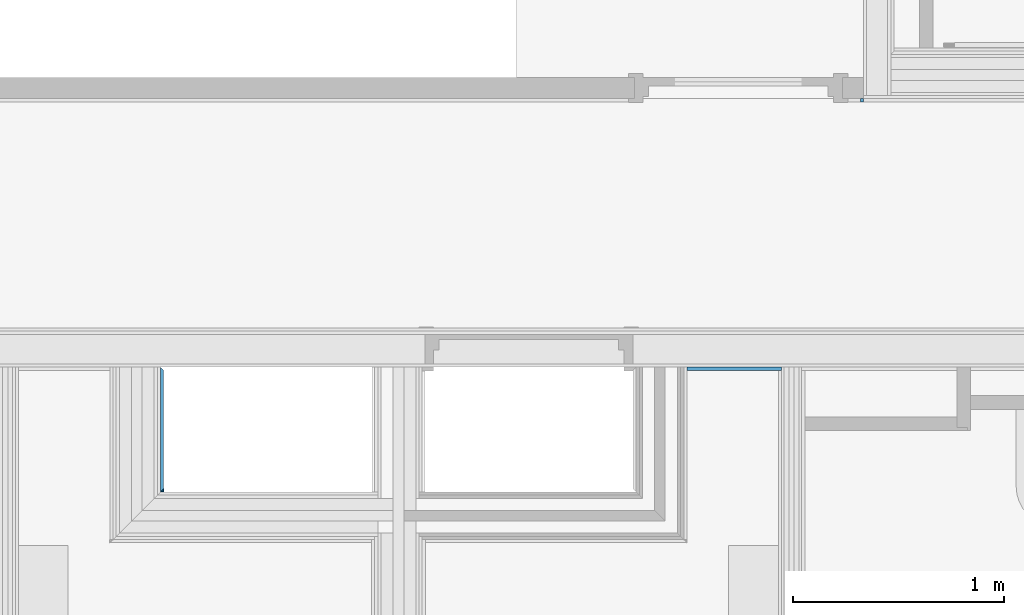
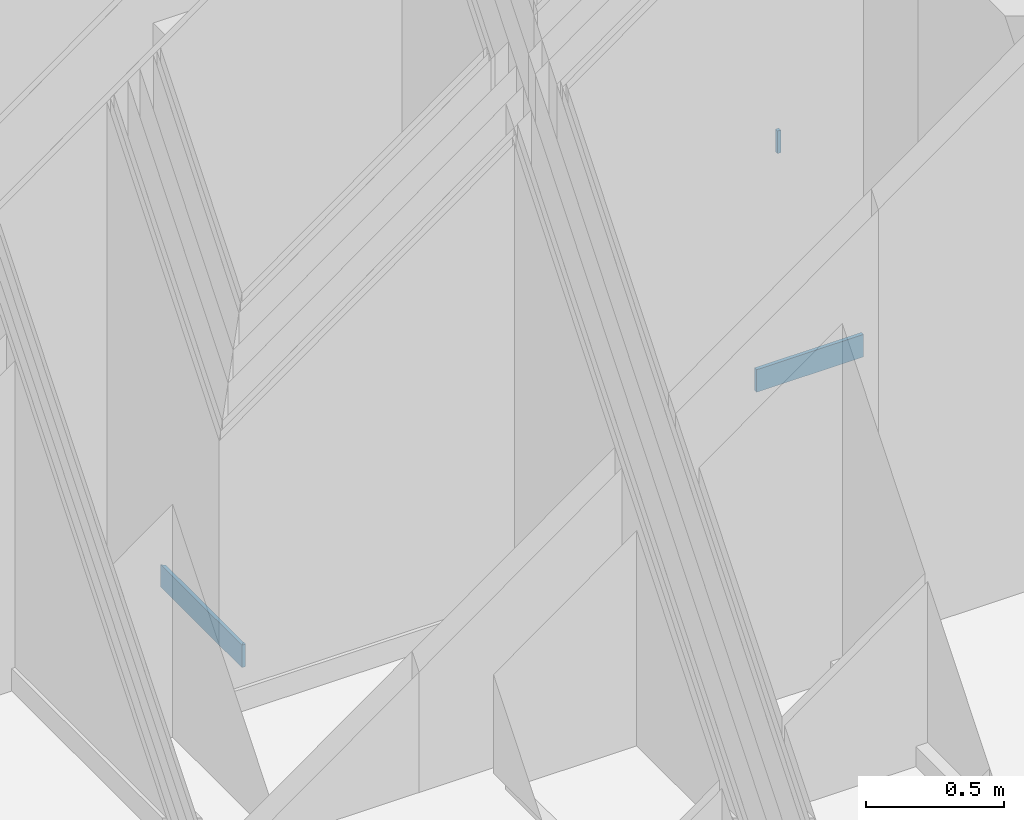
# One storey, part 30 of 64: 4 building element parts, 4 elements without a shape of their own.
"""IFC2X3 building model written with IfcOpenShell, lengths in metres."""

import ifcopenshell
import ifcopenshell.guid

model = None  # the IFC model being written
_history = None  # IfcOwnerHistory: only IFC2X3 demands one
_inside = {}  # id of a spatial element -> (the spatial element, [elements in it])
_under = {}  # id of a project, library or spatial element -> (it, [spatial elements below it])
_declared = {}  # id of a project -> (the project, [libraries it declares])
_typed = {}  # id of a type object -> (the type object, [elements of that type])
_made_of = {}  # id of a material, layer set ... -> (it, [elements and type objects made of it])


def new_model(schema):
    """Start an empty IFC model of exactly this schema.

    Asked for "IFC4X3", IfcOpenShell would pick the latest addendum, in which some entities
    have other attributes; the version numbers below select the first issue.
    IFC2X3 requires an IfcOwnerHistory on every rooted entity: one is made here for all.
    """
    global model, _history
    if schema == "IFC4X3":
        model = ifcopenshell.file(schema_version=(4, 3, 0, 0))
    else:
        model = ifcopenshell.file(schema=schema)
    _inside.clear()
    _under.clear()
    _declared.clear()
    _typed.clear()
    _made_of.clear()
    _history = None
    if model.schema == "IFC2X3":
        org = make("IfcOrganization", Name="unknown")
        user = make(
            "IfcPersonAndOrganization",
            ThePerson=make("IfcPerson", FamilyName="unknown"),
            TheOrganization=org,
        )
        app = make(
            "IfcApplication",
            ApplicationDeveloper=org,
            Version="unknown",
            ApplicationFullName="unknown",
            ApplicationIdentifier="unknown",
        )
        _history = make(
            "IfcOwnerHistory",
            OwningUser=user,
            OwningApplication=app,
            ChangeAction="ADDED",
            CreationDate=0,
        )
    return model


def make(cls, **values):
    """One entity of the class cls with the attributes given. An attribute that is None is left unset."""
    return model.create_entity(
        cls, **{name: value for name, value in values.items() if value is not None}
    )


def entity(cls, *values):
    """Any entity or typed value of the class cls, its attributes in the order of the schema. None: left unset."""
    e = model.create_entity(cls)
    for i, value in enumerate(values):
        if value is not None:
            e[i] = value
    return e


def rooted(cls, **values):
    """An entity with a GlobalId (a new one), such as an element, a storey or a relation."""
    return make(cls, GlobalId=ifcopenshell.guid.new(), OwnerHistory=_history, **values)


def si_unit(unit_type, name, prefix=None):
    """IfcSIUnit, for example si_unit("LENGTHUNIT", "METRE", prefix="MILLI")."""
    return make("IfcSIUnit", UnitType=unit_type, Prefix=prefix, Name=name)


def converted_unit(unit_type, name, factor, base, dimensions=None, offset=None):
    """IfcConversionBasedUnit, such as the inch: factor (a typed value) times the base unit."""
    return make(
        "IfcConversionBasedUnit"
        if offset is None
        else "IfcConversionBasedUnitWithOffset",
        ConversionOffset=offset,
        Dimensions=None
        if dimensions is None
        else entity("IfcDimensionalExponents", *dimensions),
        UnitType=unit_type,
        Name=name,
        ConversionFactor=make(
            "IfcMeasureWithUnit", ValueComponent=factor, UnitComponent=base
        ),
    )


def derived_unit(unit_type, elements):
    """IfcDerivedUnit: a product of units, each with its exponent."""
    return make(
        "IfcDerivedUnit",
        Elements=[
            make("IfcDerivedUnitElement", Unit=unit, Exponent=power)
            for unit, power in elements
        ],
        UnitType=unit_type,
    )


def money_unit(currency):
    """IfcMonetaryUnit."""
    return make("IfcMonetaryUnit", Currency=currency)


def assignment(units):
    """IfcUnitAssignment: the units of a project."""
    return None if units is None else make("IfcUnitAssignment", Units=units)


def point(xyz):
    """IfcCartesianPoint."""
    return None if xyz is None else make("IfcCartesianPoint", Coordinates=xyz)


def direction(xyz):
    """IfcDirection."""
    return None if xyz is None else make("IfcDirection", DirectionRatios=xyz)


def frame(location, z_axis=None, x_axis=None):
    """IfcAxis2Placement3D, a coordinate frame: its origin and axes. An axis left out is left unset."""
    return make(
        "IfcAxis2Placement3D",
        Location=point(location),
        Axis=direction(z_axis),
        RefDirection=direction(x_axis),
    )


def frame_2d(location, x_axis=None):
    """IfcAxis2Placement2D, a coordinate frame in the plane: its origin and x axis."""
    return make(
        "IfcAxis2Placement2D", Location=point(location), RefDirection=direction(x_axis)
    )


def origin_with_axes():
    """The frame at (0, 0, 0) with the z axis (0, 0, 1) and the x axis (1, 0, 0) written out."""
    return frame((0.0, 0.0, 0.0), z_axis=(0.0, 0.0, 1.0), x_axis=(1.0, 0.0, 0.0))


def place(relative_to, where):
    """IfcLocalPlacement: puts the frame where relative to a parent placement (None: the world)."""
    return make(
        "IfcLocalPlacement", PlacementRelTo=relative_to, RelativePlacement=where
    )


def context(
    kind, dimensions, precision=None, world=None, true_north=None, identifier=None
):
    """IfcGeometricRepresentationContext, for example the 3D "Model" context."""
    return make(
        "IfcGeometricRepresentationContext",
        ContextIdentifier=identifier,
        ContextType=kind,
        CoordinateSpaceDimension=dimensions,
        Precision=precision,
        WorldCoordinateSystem=world,
        TrueNorth=true_north,
    )


def subcontext(parent, identifier, kind, view, scale=None):
    """IfcGeometricRepresentationSubContext, for example "Body" below "Model"."""
    return make(
        "IfcGeometricRepresentationSubContext",
        ContextIdentifier=identifier,
        ContextType=kind,
        ParentContext=parent,
        TargetScale=scale,
        TargetView=view,
    )


def project(units=None, contexts=None):
    """IfcProject with its units and contexts."""
    return rooted(
        "IfcProject",
        Name="project",
        RepresentationContexts=contexts,
        UnitsInContext=assignment(units),
    )


def spatial(cls, under=None, at=None, **own):
    """A site, building, storey or space (cls), placed at a placement, below another one or the project."""
    s = rooted(cls, ObjectPlacement=at, **own)
    if under is not None:
        _under.setdefault(under.id(), (under, []))[1].append(s)
    return s


def polyline(points):
    """IfcPolyline through the points."""
    return make("IfcPolyline", Points=[point(p) for p in points])


def profile(cls, at=None, kind="AREA", **sizes):
    """A parametric profile (cls). Its sizes go by their IFC names, for example OverallWidth=200.0."""
    return make(cls, ProfileType=kind, Position=at, **sizes)


def rectangle(**sizes):
    """IfcRectangleProfileDef."""
    return profile("IfcRectangleProfileDef", **sizes)


def outline(outer, holes=None, kind="AREA"):
    """IfcArbitraryClosedProfileDef: a profile drawn as a closed curve; with holes, ...WithVoids."""
    if holes is None:
        return make("IfcArbitraryClosedProfileDef", ProfileType=kind, OuterCurve=outer)
    return make(
        "IfcArbitraryProfileDefWithVoids",
        ProfileType=kind,
        OuterCurve=outer,
        InnerCurves=holes,
    )


def extrude(swept, where, along, depth):
    """IfcExtrudedAreaSolid: the profile swept, set in the frame where, extruded along a direction by depth."""
    return make(
        "IfcExtrudedAreaSolid",
        SweptArea=swept,
        Position=where,
        ExtrudedDirection=direction(along),
        Depth=depth,
    )


def shape(context_of_items, identifier, shape_type, items):
    """IfcShapeRepresentation: the items that make up one representation, for example the "Body"."""
    return make(
        "IfcShapeRepresentation",
        ContextOfItems=context_of_items,
        RepresentationIdentifier=identifier,
        RepresentationType=shape_type,
        Items=items,
    )


def material(Name=None, Category=None):
    """IfcMaterial."""
    return make("IfcMaterial", Name=Name, Category=Category)


def made_of(thing, what):
    """Note that an element or type object is made of a material, layer set ...; save() writes the relation."""
    if what is not None:
        _made_of.setdefault(what.id(), (what, []))[1].append(thing)
    return thing


def type_object(cls, material=None, **own):
    """A type object (cls), such as IfcWallType, which elements share."""
    return made_of(rooted(cls, **own), material)


def element(
    cls,
    number,
    at=None,
    inside=None,
    cuts=None,
    type_object=None,
    material=None,
    context=None,
    identifier="Body",
    shape_type=None,
    held_by="IfcProductDefinitionShape",
    body=None,
    shapes=None,
    **own,
):
    """One element of the class cls, such as IfcWall. Its Tag is "e" and its number.

    at: its placement. inside: the storey or other place that contains it. cuts: it is an
    opening in that element (IfcRelVoidsElement). A single representation is given by context,
    identifier, shape_type and body (its items); several are given by shapes. held_by: the class
    of the entity that holds the representations. save() writes the other relations.
    """
    e = rooted(cls, Tag="e%d" % number, ObjectPlacement=at, **own)
    if body is not None:
        shapes = [shape(context, identifier, shape_type, body)]
    if shapes is not None:
        e.Representation = make(held_by, Representations=shapes)
    if inside is not None:
        _inside.setdefault(inside.id(), (inside, []))[1].append(e)
    if cuts is not None:
        rooted(
            "IfcRelVoidsElement", RelatingBuildingElement=cuts, RelatedOpeningElement=e
        )
    if type_object is not None:
        _typed.setdefault(type_object.id(), (type_object, []))[1].append(e)
    return made_of(e, material)


def aggregate(whole, parts):
    """IfcRelAggregates: a whole, such as a stair, and the parts it consists of."""
    return rooted("IfcRelAggregates", RelatingObject=whole, RelatedObjects=parts)


def save(model, path):
    """Write the relations noted so far, then the file.

    IfcRelAggregates (storeys below a building ...), IfcRelContainedInSpatialStructure (elements
    in a storey), IfcRelDefinesByType, IfcRelAssociatesMaterial and IfcRelDeclares: one each for
    every whole, place, type object, material and project.
    """
    for whole, parts in _under.values():
        aggregate(whole, parts)
    for where, things in _inside.values():
        rooted(
            "IfcRelContainedInSpatialStructure",
            RelatedElements=things,
            RelatingStructure=where,
        )
    for kind, things in _typed.values():
        rooted("IfcRelDefinesByType", RelatedObjects=things, RelatingType=kind)
    for what, things in _made_of.values():
        rooted("IfcRelAssociatesMaterial", RelatedObjects=things, RelatingMaterial=what)
    for by, libraries in _declared.values():
        rooted("IfcRelDeclares", RelatingContext=by, RelatedDefinitions=libraries)
    model.write(path)


model = new_model("IFC2X3")

# Units and contexts
model_context = context("Model", 3, precision=1e-05, world=origin_with_axes(), true_north=direction((0.0, 1.0)))
body_context = subcontext(model_context, "Body", "Model", "MODEL_VIEW", scale=1.0)
ifc_project = project(units=[si_unit("LENGTHUNIT", "METRE"), si_unit("AREAUNIT", "SQUARE_METRE"), si_unit("VOLUMEUNIT", "CUBIC_METRE"), si_unit("ABSORBEDDOSEUNIT", "GRAY"), si_unit("AMOUNTOFSUBSTANCEUNIT", "MOLE"), si_unit("DOSEEQUIVALENTUNIT", "SIEVERT"), si_unit("ELECTRICCAPACITANCEUNIT", "FARAD"), si_unit("ELECTRICCHARGEUNIT", "COULOMB"), si_unit("ELECTRICCONDUCTANCEUNIT", "SIEMENS"), si_unit("ELECTRICCURRENTUNIT", "AMPERE"), si_unit("ELECTRICRESISTANCEUNIT", "OHM"), si_unit("ELECTRICVOLTAGEUNIT", "VOLT"), si_unit("ENERGYUNIT", "JOULE"), si_unit("FORCEUNIT", "NEWTON"), si_unit("FREQUENCYUNIT", "HERTZ"), si_unit("ILLUMINANCEUNIT", "LUX"), si_unit("INDUCTANCEUNIT", "HENRY"), si_unit("LUMINOUSFLUXUNIT", "LUMEN"), si_unit("LUMINOUSINTENSITYUNIT", "CANDELA"), si_unit("MAGNETICFLUXDENSITYUNIT", "TESLA"), si_unit("MAGNETICFLUXUNIT", "WEBER"), si_unit("MASSUNIT", "GRAM"), converted_unit("PLANEANGLEUNIT", "degree", entity("IfcReal", 0.0174532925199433), si_unit("PLANEANGLEUNIT", "RADIAN"), dimensions=[0, 0, 0, 0, 0, 0, 0]), si_unit("POWERUNIT", "WATT"), si_unit("PRESSUREUNIT", "PASCAL"), si_unit("RADIOACTIVITYUNIT", "BECQUEREL"), si_unit("SOLIDANGLEUNIT", "STERADIAN"), si_unit("THERMODYNAMICTEMPERATUREUNIT", "KELVIN"), si_unit("TIMEUNIT", "SECOND"), derived_unit("ACCELERATIONUNIT", [(si_unit("LENGTHUNIT", "METRE"), 1), (si_unit("TIMEUNIT", "SECOND"), -2)]), derived_unit("ANGULARVELOCITYUNIT", [(converted_unit("PLANEANGLEUNIT", "degree", entity("IfcReal", 0.0174532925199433), si_unit("PLANEANGLEUNIT", "RADIAN"), dimensions=[0, 0, 0, 0, 0, 0, 0]), 1), (si_unit("TIMEUNIT", "SECOND"), -1)]), derived_unit("CURVATUREUNIT", [(converted_unit("PLANEANGLEUNIT", "degree", entity("IfcReal", 0.0174532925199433), si_unit("PLANEANGLEUNIT", "RADIAN"), dimensions=[0, 0, 0, 0, 0, 0, 0]), 1), (si_unit("LENGTHUNIT", "METRE"), -1)]), derived_unit("DYNAMICVISCOSITYUNIT", [(si_unit("PRESSUREUNIT", "PASCAL"), 1), (si_unit("TIMEUNIT", "SECOND"), 1)]), derived_unit("HEATFLUXDENSITYUNIT", [(si_unit("POWERUNIT", "WATT"), 1), (si_unit("LENGTHUNIT", "METRE"), -2)]), derived_unit("HEATINGVALUEUNIT", [(si_unit("ENERGYUNIT", "JOULE"), 1), (si_unit("MASSUNIT", "GRAM"), -1)]), derived_unit("INTEGERCOUNTRATEUNIT", [(si_unit("TIMEUNIT", "SECOND"), -1)]), derived_unit("IONCONCENTRATIONUNIT", [(si_unit("MASSUNIT", "GRAM"), 1), (si_unit("VOLUMEUNIT", "CUBIC_METRE"), -1)]), derived_unit("ISOTHERMALMOISTURECAPACITYUNIT", [(si_unit("VOLUMEUNIT", "CUBIC_METRE"), 1), (si_unit("MASSUNIT", "GRAM"), -1)]), derived_unit("KINEMATICVISCOSITYUNIT", [(si_unit("AREAUNIT", "SQUARE_METRE"), 1), (si_unit("TIMEUNIT", "SECOND"), -1)]), derived_unit("LINEARFORCEUNIT", [(si_unit("FORCEUNIT", "NEWTON"), 1), (si_unit("LENGTHUNIT", "METRE"), -1)]), derived_unit("LINEARMOMENTUNIT", [(si_unit("FORCEUNIT", "NEWTON"), 1), (si_unit("LENGTHUNIT", "METRE"), -1)]), derived_unit("LINEARSTIFFNESSUNIT", [(si_unit("FORCEUNIT", "NEWTON"), 1), (si_unit("LENGTHUNIT", "METRE"), -1)]), derived_unit("LINEARVELOCITYUNIT", [(si_unit("LENGTHUNIT", "METRE"), 1), (si_unit("TIMEUNIT", "SECOND"), -1)]), derived_unit("LUMINOUSINTENSITYDISTRIBUTIONUNIT", [(si_unit("LUMINOUSINTENSITYUNIT", "CANDELA"), 1), (si_unit("LUMINOUSFLUXUNIT", "LUMEN"), -1)]), derived_unit("MASSDENSITYUNIT", [(si_unit("MASSUNIT", "GRAM"), 1), (si_unit("VOLUMEUNIT", "CUBIC_METRE"), -1)]), derived_unit("MASSFLOWRATEUNIT", [(si_unit("MASSUNIT", "GRAM"), 1), (si_unit("TIMEUNIT", "SECOND"), -1)]), derived_unit("MASSPERLENGTHUNIT", [(si_unit("MASSUNIT", "GRAM"), 1), (si_unit("LENGTHUNIT", "METRE"), -1)]), derived_unit("MODULUSOFELASTICITYUNIT", [(si_unit("FORCEUNIT", "NEWTON"), 1), (si_unit("AREAUNIT", "SQUARE_METRE"), -1)]), derived_unit("MODULUSOFLINEARSUBGRADEREACTIONUNIT", [(si_unit("FORCEUNIT", "NEWTON"), 1), (si_unit("LENGTHUNIT", "METRE"), -2)]), derived_unit("MODULUSOFROTATIONALSUBGRADEREACTIONUNIT", [(si_unit("FORCEUNIT", "NEWTON"), 1), (si_unit("LENGTHUNIT", "METRE"), 1)]), derived_unit("MODULUSOFSUBGRADEREACTIONUNIT", [(si_unit("FORCEUNIT", "NEWTON"), 1), (si_unit("VOLUMEUNIT", "CUBIC_METRE"), -1)]), derived_unit("MOISTUREDIFFUSIVITYUNIT", [(si_unit("VOLUMEUNIT", "CUBIC_METRE"), 1), (si_unit("TIMEUNIT", "SECOND"), -1)]), derived_unit("MOLECULARWEIGHTUNIT", [(si_unit("MASSUNIT", "GRAM"), 1), (si_unit("AMOUNTOFSUBSTANCEUNIT", "MOLE"), -1)]), derived_unit("PLANARFORCEUNIT", [(si_unit("FORCEUNIT", "NEWTON"), 1), (si_unit("LENGTHUNIT", "METRE"), -2)]), derived_unit("ROTATIONALFREQUENCYUNIT", [(si_unit("TIMEUNIT", "SECOND"), -1)]), derived_unit("ROTATIONALMASSUNIT", [(si_unit("MASSUNIT", "GRAM"), 1), (si_unit("LENGTHUNIT", "METRE"), 2)]), derived_unit("ROTATIONALSTIFFNESSUNIT", [(si_unit("FORCEUNIT", "NEWTON"), 1), (si_unit("LENGTHUNIT", "METRE"), 1), (converted_unit("PLANEANGLEUNIT", "degree", entity("IfcReal", 0.0174532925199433), si_unit("PLANEANGLEUNIT", "RADIAN"), dimensions=[0, 0, 0, 0, 0, 0, 0]), -1)]), derived_unit("SECTIONAREAINTEGRALUNIT", [(si_unit("LENGTHUNIT", "METRE"), 5)]), derived_unit("SECTIONMODULUSUNIT", [(si_unit("LENGTHUNIT", "METRE"), 3)]), derived_unit("SHEARMODULUSUNIT", [(si_unit("FORCEUNIT", "NEWTON"), 1), (si_unit("AREAUNIT", "SQUARE_METRE"), -1)]), derived_unit("SOUNDPOWERUNIT", [(si_unit("ENERGYUNIT", "JOULE"), 1), (si_unit("TIMEUNIT", "SECOND"), -1)]), derived_unit("SPECIFICHEATCAPACITYUNIT", [(si_unit("FORCEUNIT", "NEWTON"), 1), (si_unit("MASSUNIT", "GRAM"), -1), (si_unit("THERMODYNAMICTEMPERATUREUNIT", "KELVIN"), -1)]), derived_unit("TEMPERATUREGRADIENTUNIT", [(si_unit("THERMODYNAMICTEMPERATUREUNIT", "KELVIN"), 1), (si_unit("LENGTHUNIT", "METRE"), -1)]), derived_unit("THERMALADMITTANCEUNIT", [(si_unit("POWERUNIT", "WATT"), 1), (si_unit("AREAUNIT", "SQUARE_METRE"), -1), (si_unit("THERMODYNAMICTEMPERATUREUNIT", "KELVIN"), -1)]), derived_unit("THERMALCONDUCTANCEUNIT", [(si_unit("POWERUNIT", "WATT"), 1), (si_unit("LENGTHUNIT", "METRE"), -1), (si_unit("THERMODYNAMICTEMPERATUREUNIT", "KELVIN"), -1)]), derived_unit("THERMALEXPANSIONCOEFFICIENTUNIT", [(si_unit("THERMODYNAMICTEMPERATUREUNIT", "KELVIN"), -1)]), derived_unit("THERMALRESISTANCEUNIT", [(si_unit("AREAUNIT", "SQUARE_METRE"), 1), (si_unit("POWERUNIT", "WATT"), -1)]), derived_unit("THERMALTRANSMITTANCEUNIT", [(si_unit("POWERUNIT", "WATT"), 1), (si_unit("AREAUNIT", "SQUARE_METRE"), -1), (si_unit("THERMODYNAMICTEMPERATUREUNIT", "KELVIN"), -1)]), derived_unit("TORQUEUNIT", [(si_unit("FORCEUNIT", "NEWTON"), 1), (si_unit("LENGTHUNIT", "METRE"), 1)]), derived_unit("VAPORPERMEABILITYUNIT", [(si_unit("MASSUNIT", "GRAM"), 1), (si_unit("TIMEUNIT", "SECOND"), -1)]), derived_unit("VOLUMETRICFLOWRATEUNIT", [(si_unit("VOLUMEUNIT", "CUBIC_METRE"), 1), (si_unit("TIMEUNIT", "SECOND"), -1)]), derived_unit("WARPINGCONSTANTUNIT", [(si_unit("LENGTHUNIT", "METRE"), 6)]), derived_unit("WARPINGMOMENTUNIT", [(si_unit("FORCEUNIT", "NEWTON"), 1), (si_unit("LENGTHUNIT", "METRE"), 2)]), money_unit("GBP")], contexts=[model_context])

# Site, building, storey
site_placement = place(None, origin_with_axes())
site = spatial("IfcSite", under=ifc_project, at=site_placement, Name="Site", CompositionType="ELEMENT")
building_placement = place(site_placement, origin_with_axes())
building = spatial("IfcBuilding", under=site, at=building_placement, Name="Building01", CompositionType="ELEMENT")
storey_placement = place(building_placement, frame((0.0, 0.0, 8.64), z_axis=(0.0, 0.0, 1.0), x_axis=(1.0, 0.0, 0.0)))
storey = spatial("IfcBuildingStorey", under=building, at=storey_placement, Name="2F", CompositionType="ELEMENT", Elevation=8.64)

# Wall, building element part
wall_type_1 = type_object("IfcWallType", Name="SHE_A-Walls_Type01c_Partywall_225mm_twin_tall", PredefinedType="NOTDEFINED")
wall_1_placement = place(storey_placement, frame((12.288, 4.302428, 0.0), z_axis=(0.0, 0.0, 1.0), x_axis=(1.0, 0.0, 0.0)))
wall_1 = element("IfcWall", 1, at=wall_1_placement, inside=storey, type_object=wall_type_1, Name="1C", ObjectType="SHE_A-Walls_Type01c_Partywall_225mm_twin_tall")
ifc_material = material(Name="A_BSUK_Walls_Timber")
building_element_part_1_placement = place(wall_1_placement, origin_with_axes())
building_element_part_1 = element("IfcBuildingElementPart", 2, at=building_element_part_1_placement, material=ifc_material, Name="9", context=body_context, shape_type="SweptSolid", body=[
    extrude(outline(polyline([(0.102, 0.102), (0.087, 0.087), (0.102549, 0.087), (0.102549, 0.102), (0.102, 0.102)])), frame((0.0, 0.0, 0.015), z_axis=(0.0, 0.0, 1.0), x_axis=(1.0, 0.0, 0.0)), (0.0, 0.0, 1.0), 0.1),
])
aggregate(wall_1, [building_element_part_1])

wall_2_placement = place(storey_placement, frame((12.288, 4.98, 0.0), z_axis=(0.0, 0.0, 1.0), x_axis=(0.0, -1.0, 0.0)))
wall_2 = element("IfcWall", 3, at=wall_2_placement, inside=storey, type_object=wall_type_1, Name="1C", ObjectType="SHE_A-Walls_Type01c_Partywall_225mm_twin_tall")
building_element_part_2_placement = place(wall_2_placement, origin_with_axes())
building_element_part_2 = element("IfcBuildingElementPart", 4, at=building_element_part_2_placement, material=ifc_material, Name="10", context=body_context, shape_type="SweptSolid", body=[
    extrude(outline(polyline([(0.575572, 0.102), (0.015, 0.102), (0.0, 0.087), (0.590572, 0.087), (0.575572, 0.102)])), frame((0.0, 0.0, 0.015), z_axis=(0.0, 0.0, 1.0), x_axis=(1.0, 0.0, 0.0)), (0.0, 0.0, 1.0), 0.1),
])
aggregate(wall_2, [building_element_part_2])

wall_type_2 = type_object("IfcWallType", Name="SHE_A-Walls_Type04a_BlockworkWall_130mm", PredefinedType="NOTDEFINED")
wall_3_placement = place(storey_placement, frame((15.715, 8.665, 0.0), z_axis=(0.0, 0.0, 1.0), x_axis=(0.0, -1.0, 0.0)))
wall_3 = element("IfcWall", 5, at=wall_3_placement, inside=storey, type_object=wall_type_2, Name="4A", ObjectType="SHE_A-Walls_Type04a_BlockworkWall_130mm")
building_element_part_3_placement = place(wall_3_placement, origin_with_axes())
building_element_part_3 = element("IfcBuildingElementPart", 6, at=building_element_part_3_placement, material=ifc_material, Name="1", context=body_context, shape_type="SweptSolid", body=[
    extrude(rectangle(XDim=0.015, YDim=0.015, at=frame_2d((2.4225, -0.0225), x_axis=(0.0, -1.0))), frame((0.0, 0.0, 0.015), z_axis=(0.0, 0.0, 1.0), x_axis=(1.0, 0.0, 0.0)), (0.0, 0.0, 1.0), 0.1),
])
aggregate(wall_3, [building_element_part_3])

wall_type_3 = type_object("IfcWallType", Name="SHE_A-Walls_Type03a_BlockworkWall_170mm", PredefinedType="NOTDEFINED")
wall_4_placement = place(storey_placement, frame((9.215, 4.995, 0.0), z_axis=(0.0, 0.0, 1.0), x_axis=(1.0, 0.0, 0.0)))
wall_4 = element("IfcWall", 7, at=wall_4_placement, inside=storey, type_object=wall_type_3, Name="4B", ObjectType="SHE_A-Walls_Type03a_BlockworkWall_170mm")
building_element_part_4_placement = place(wall_4_placement, origin_with_axes())
building_element_part_4 = element("IfcBuildingElementPart", 8, at=building_element_part_4_placement, material=ifc_material, Name="2", context=body_context, shape_type="SweptSolid", body=[
    extrude(rectangle(XDim=0.4475, YDim=0.015, at=frame_2d((5.87375, -0.0225), x_axis=(-1.0, 0.0))), frame((0.0, 0.0, 0.015), z_axis=(0.0, 0.0, 1.0), x_axis=(1.0, 0.0, 0.0)), (0.0, 0.0, 1.0), 0.1),
])
aggregate(wall_4, [building_element_part_4])

save(model, "model.ifc")
